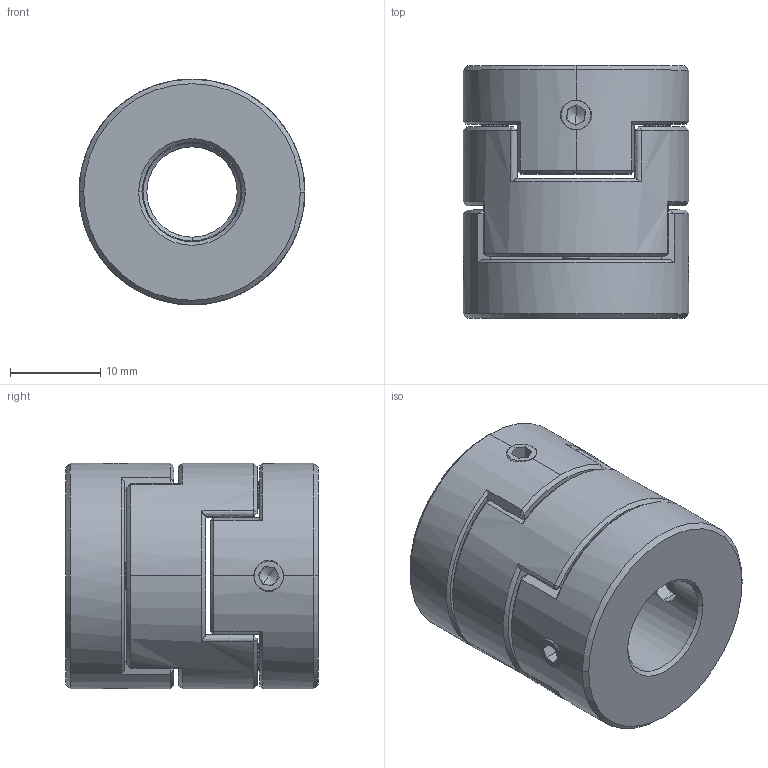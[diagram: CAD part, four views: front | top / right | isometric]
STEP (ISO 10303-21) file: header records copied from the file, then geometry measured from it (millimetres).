
FILE_DESCRIPTION (( 'STEP AP203' ), '1' );
FILE_NAME ('LZ-D-D25L28-10-11.STEP', '2021-10-30T02:21:44', ( '' ), ( '' ), 'SwSTEP 2.0', 'SolidWorks 2018', '' );
FILE_SCHEMA (( 'CONFIG_CONTROL_DESIGN' ));
Length unit declared in the file: millimetre
Products named in the file (1): LZ-D-D25L28-10-11
Bounding box: 25 x 28 x 25 mm (x, y, z)
Volume: 10700.1 mm3; surface area: 5536.5 mm2
Topology: 1 solids, 1 shells, 218 faces, 574 edges, 348 vertices
Faces by surface type: plane 88, cone 54, bspline 50, cylinder 26
Entity records: 9888 total; most frequent: CARTESIAN_POINT 4964, ORIENTED_EDGE 1132, DIRECTION 834, EDGE_CURVE 566, VERTEX_POINT 348, AXIS2_PLACEMENT_3D 303, EDGE_LOOP 234, VECTOR 228
